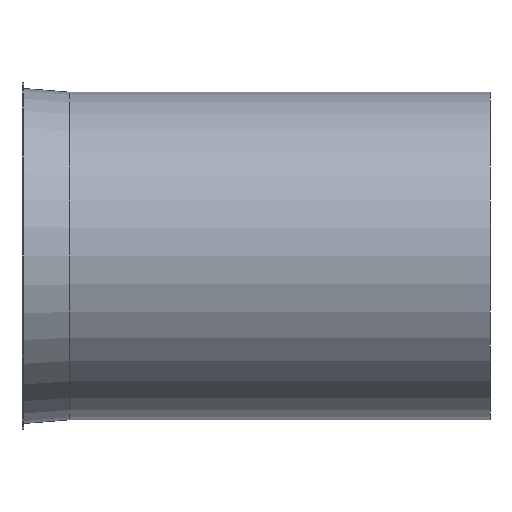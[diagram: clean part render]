
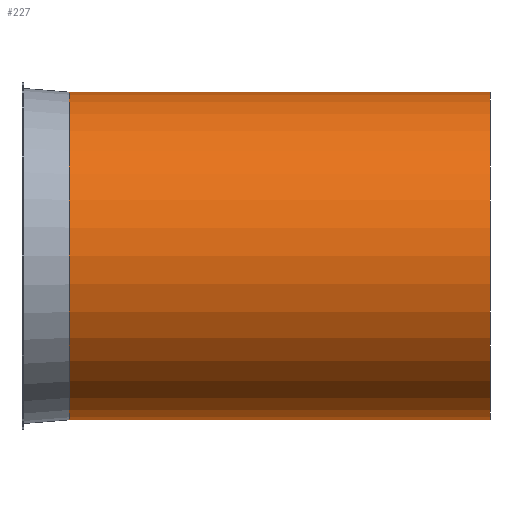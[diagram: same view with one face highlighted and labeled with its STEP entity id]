
A CAD part, front view. The second image highlights one B-rep face of the part: STEP entity #227.
In plain terms, the highlighted cylindrical face has radius 172.5 mm (diameter 345 mm), a full revolution.
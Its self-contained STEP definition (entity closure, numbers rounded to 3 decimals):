
#132=CARTESIAN_POINT('',(22.919,46.834,0.0));
#133=VERTEX_POINT('',#132);
#134=CARTESIAN_POINT('',(22.919,219.334,0.0));
#135=DIRECTION('',(-1.0,0.0,0.0));
#136=DIRECTION('',(0.0,-1.0,0.0));
#137=AXIS2_PLACEMENT_3D('',#134,#135,#136);
#138=CIRCLE('',#137,172.5);
#139=EDGE_CURVE('',#133,#133,#138,.T.);
#201=CARTESIAN_POINT('',(465.919,46.834,0.0));
#202=VERTEX_POINT('',#201);
#203=CARTESIAN_POINT('',(465.919,219.334,0.0));
#204=DIRECTION('',(-1.0,0.0,0.0));
#205=DIRECTION('',(0.0,-1.0,0.0));
#206=AXIS2_PLACEMENT_3D('',#203,#204,#205);
#207=CIRCLE('',#206,172.5);
#208=EDGE_CURVE('',#202,#202,#207,.T.);
#216=CARTESIAN_POINT('',(244.419,219.334,0.0));
#217=DIRECTION('',(-1.0,0.,0.0));
#218=DIRECTION('',(0.0,-1.0,0.0));
#219=AXIS2_PLACEMENT_3D('',#216,#217,#218);
#220=CYLINDRICAL_SURFACE('',#219,172.5);
#221=ORIENTED_EDGE('',*,*,#139,.F.);
#222=EDGE_LOOP('',(#221));
#223=FACE_OUTER_BOUND('',#222,.T.);
#224=ORIENTED_EDGE('',*,*,#208,.T.);
#225=EDGE_LOOP('',(#224));
#226=FACE_BOUND('',#225,.T.);
#227=ADVANCED_FACE('',(#223,#226),#220,.T.);
